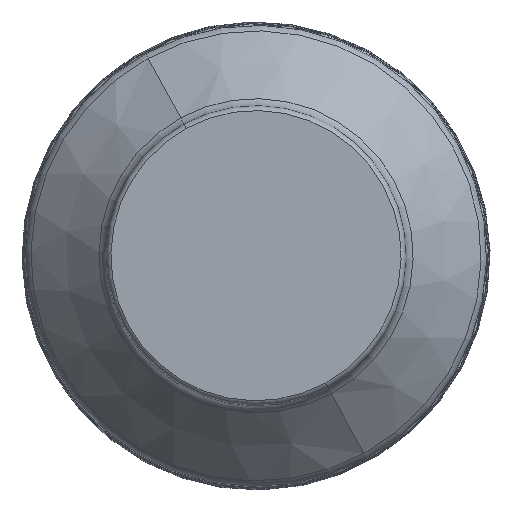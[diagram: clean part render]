
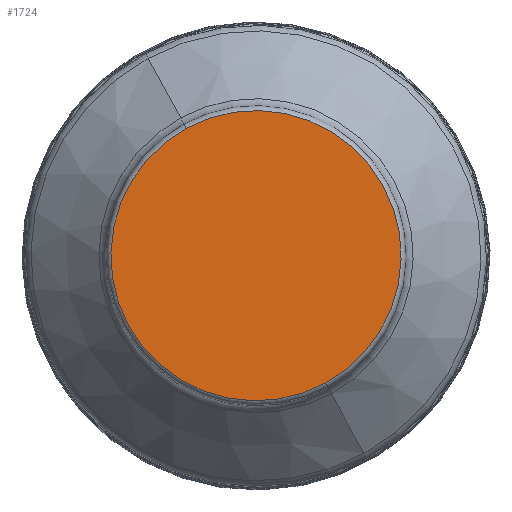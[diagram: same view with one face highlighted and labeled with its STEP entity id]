
A CAD part, top view. The second image highlights one B-rep face of the part: STEP entity #1724.
In plain terms, the highlighted planar face has unit normal (0, 0, 1).
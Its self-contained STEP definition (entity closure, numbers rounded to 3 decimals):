
#146=AXIS2_PLACEMENT_3D('Circle Axis2P3D',#144,#145,$) ;
#165=AXIS2_PLACEMENT_3D('Circle Axis2P3D',#163,#164,$) ;
#1718=AXIS2_PLACEMENT_3D('Plane Axis2P3D',#1715,#1716,#1717) ;
#141=CARTESIAN_POINT('Vertex',(16.239,-29.725,-0.004)) ;
#144=CARTESIAN_POINT('Axis2P3D Location',(0.,0.,-0.004)) ;
#148=CARTESIAN_POINT('Vertex',(-16.239,29.725,-0.004)) ;
#163=CARTESIAN_POINT('Axis2P3D Location',(0.,0.,-0.004)) ;
#1715=CARTESIAN_POINT('Axis2P3D Location',(0.,33.872,-0.004)) ;
#145=DIRECTION('Axis2P3D Direction',(0.,0.,1.)) ;
#164=DIRECTION('Axis2P3D Direction',(0.,0.,1.)) ;
#1716=DIRECTION('Axis2P3D Direction',(0.,0.,1.)) ;
#1717=DIRECTION('Axis2P3D XDirection',(1.,0.,0.)) ;
#1721=ORIENTED_EDGE('',*,*,#167,.T.) ;
#1722=ORIENTED_EDGE('',*,*,#150,.T.) ;
#1724=ADVANCED_FACE('NOCUT',(#1723),#1719,.T.) ;
#147=CIRCLE('generated circle',#146,33.872) ;
#166=CIRCLE('generated circle',#165,33.872) ;
#150=EDGE_CURVE('',#149,#142,#147,.T.) ;
#167=EDGE_CURVE('',#142,#149,#166,.T.) ;
#1720=EDGE_LOOP('',(#1721,#1722)) ;
#1723=FACE_OUTER_BOUND('',#1720,.T.) ;
#1719=PLANE('',#1718) ;
#142=VERTEX_POINT('',#141) ;
#149=VERTEX_POINT('',#148) ;
